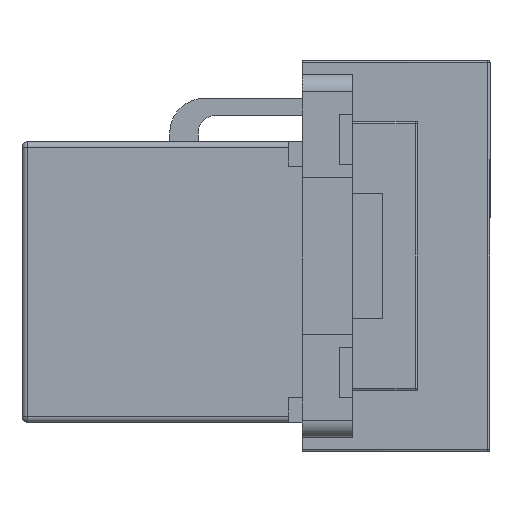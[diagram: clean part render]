
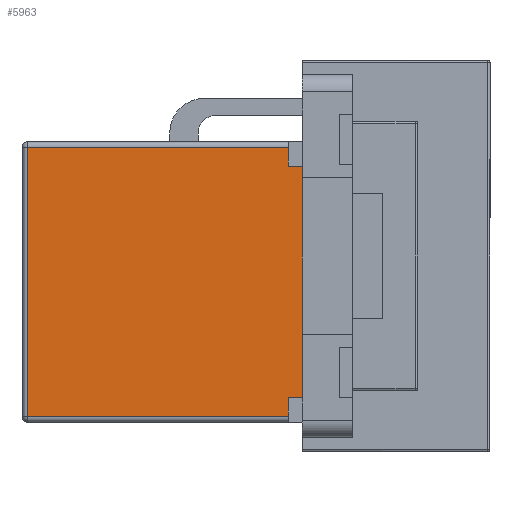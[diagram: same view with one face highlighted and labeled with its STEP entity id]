
A CAD part, left-side view. The second image highlights one B-rep face of the part: STEP entity #5963.
In plain terms, the highlighted planar face has unit normal (-1, 0, 0).
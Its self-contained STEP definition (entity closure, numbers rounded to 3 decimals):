
#5319 = VERTEX_POINT('',#5320);
#5320 = CARTESIAN_POINT('',(-7.25,-7.8,26.7));
#5327 = EDGE_CURVE('',#5328,#5319,#5330,.T.);
#5328 = VERTEX_POINT('',#5329);
#5329 = CARTESIAN_POINT('',(-7.25,-7.8,11.6));
#5330 = LINE('',#5331,#5332);
#5331 = CARTESIAN_POINT('',(-7.25,-7.8,11.6));
#5332 = VECTOR('',#5333,1.);
#5333 = DIRECTION('',(0.,0.,1.));
#5350 = EDGE_CURVE('',#5328,#5351,#5353,.T.);
#5351 = VERTEX_POINT('',#5352);
#5352 = CARTESIAN_POINT('',(-7.25,-6.7,11.6));
#5353 = LINE('',#5354,#5355);
#5354 = CARTESIAN_POINT('',(-7.25,-8.1,11.6));
#5355 = VECTOR('',#5356,1.);
#5356 = DIRECTION('',(0.,1.,0.));
#5467 = VERTEX_POINT('',#5468);
#5468 = CARTESIAN_POINT('',(-7.25,-7.8,9.7));
#5475 = EDGE_CURVE('',#5476,#5467,#5478,.T.);
#5476 = VERTEX_POINT('',#5477);
#5477 = CARTESIAN_POINT('',(-7.25,-7.8,0.3));
#5478 = LINE('',#5479,#5480);
#5479 = CARTESIAN_POINT('',(-7.25,-7.8,0.));
#5480 = VECTOR('',#5481,1.);
#5481 = DIRECTION('',(0.,0.,1.));
#5498 = EDGE_CURVE('',#5499,#5467,#5501,.T.);
#5499 = VERTEX_POINT('',#5500);
#5500 = CARTESIAN_POINT('',(-7.25,-6.7,9.7));
#5501 = LINE('',#5502,#5503);
#5502 = CARTESIAN_POINT('',(-7.25,-6.7,9.7));
#5503 = VECTOR('',#5504,1.);
#5504 = DIRECTION('',(0.,-1.,0.));
#5963 = ADVANCED_FACE('',(#5964),#6030,.F.);
#5964 = FACE_BOUND('',#5965,.F.);
#5965 = EDGE_LOOP('',(#5966,#5967,#5968,#5976,#5984,#5992,#6000,#6008,
    #6016,#6022,#6023,#6024));
#5966 = ORIENTED_EDGE('',*,*,#5498,.T.);
#5967 = ORIENTED_EDGE('',*,*,#5475,.F.);
#5968 = ORIENTED_EDGE('',*,*,#5969,.F.);
#5969 = EDGE_CURVE('',#5970,#5476,#5972,.T.);
#5970 = VERTEX_POINT('',#5971);
#5971 = CARTESIAN_POINT('',(-7.25,7.8,0.3));
#5972 = LINE('',#5973,#5974);
#5973 = CARTESIAN_POINT('',(-7.25,8.1,0.3));
#5974 = VECTOR('',#5975,1.);
#5975 = DIRECTION('',(0.,-1.,0.));
#5976 = ORIENTED_EDGE('',*,*,#5977,.T.);
#5977 = EDGE_CURVE('',#5970,#5978,#5980,.T.);
#5978 = VERTEX_POINT('',#5979);
#5979 = CARTESIAN_POINT('',(-7.25,7.8,9.7));
#5980 = LINE('',#5981,#5982);
#5981 = CARTESIAN_POINT('',(-7.25,7.8,0.));
#5982 = VECTOR('',#5983,1.);
#5983 = DIRECTION('',(0.,0.,1.));
#5984 = ORIENTED_EDGE('',*,*,#5985,.T.);
#5985 = EDGE_CURVE('',#5978,#5986,#5988,.T.);
#5986 = VERTEX_POINT('',#5987);
#5987 = CARTESIAN_POINT('',(-7.25,6.7,9.7));
#5988 = LINE('',#5989,#5990);
#5989 = CARTESIAN_POINT('',(-7.25,8.1,9.7));
#5990 = VECTOR('',#5991,1.);
#5991 = DIRECTION('',(0.,-1.,0.));
#5992 = ORIENTED_EDGE('',*,*,#5993,.T.);
#5993 = EDGE_CURVE('',#5986,#5994,#5996,.T.);
#5994 = VERTEX_POINT('',#5995);
#5995 = CARTESIAN_POINT('',(-7.25,6.7,11.6));
#5996 = LINE('',#5997,#5998);
#5997 = CARTESIAN_POINT('',(-7.25,6.7,9.7));
#5998 = VECTOR('',#5999,1.);
#5999 = DIRECTION('',(0.,0.,1.));
#6000 = ORIENTED_EDGE('',*,*,#6001,.T.);
#6001 = EDGE_CURVE('',#5994,#6002,#6004,.T.);
#6002 = VERTEX_POINT('',#6003);
#6003 = CARTESIAN_POINT('',(-7.25,7.8,11.6));
#6004 = LINE('',#6005,#6006);
#6005 = CARTESIAN_POINT('',(-7.25,6.7,11.6));
#6006 = VECTOR('',#6007,1.);
#6007 = DIRECTION('',(0.,1.,0.));
#6008 = ORIENTED_EDGE('',*,*,#6009,.T.);
#6009 = EDGE_CURVE('',#6002,#6010,#6012,.T.);
#6010 = VERTEX_POINT('',#6011);
#6011 = CARTESIAN_POINT('',(-7.25,7.8,26.7));
#6012 = LINE('',#6013,#6014);
#6013 = CARTESIAN_POINT('',(-7.25,7.8,11.6));
#6014 = VECTOR('',#6015,1.);
#6015 = DIRECTION('',(0.,0.,1.));
#6016 = ORIENTED_EDGE('',*,*,#6017,.T.);
#6017 = EDGE_CURVE('',#6010,#5319,#6018,.T.);
#6018 = LINE('',#6019,#6020);
#6019 = CARTESIAN_POINT('',(-7.25,8.1,26.7));
#6020 = VECTOR('',#6021,1.);
#6021 = DIRECTION('',(0.,-1.,0.));
#6022 = ORIENTED_EDGE('',*,*,#5327,.F.);
#6023 = ORIENTED_EDGE('',*,*,#5350,.T.);
#6024 = ORIENTED_EDGE('',*,*,#6025,.T.);
#6025 = EDGE_CURVE('',#5351,#5499,#6026,.T.);
#6026 = LINE('',#6027,#6028);
#6027 = CARTESIAN_POINT('',(-7.25,-6.7,11.6));
#6028 = VECTOR('',#6029,1.);
#6029 = DIRECTION('',(0.,0.,-1.));
#6030 = PLANE('',#6031);
#6031 = AXIS2_PLACEMENT_3D('',#6032,#6033,#6034);
#6032 = CARTESIAN_POINT('',(-7.25,8.1,0.));
#6033 = DIRECTION('',(1.,0.,0.));
#6034 = DIRECTION('',(0.,-1.,0.));
